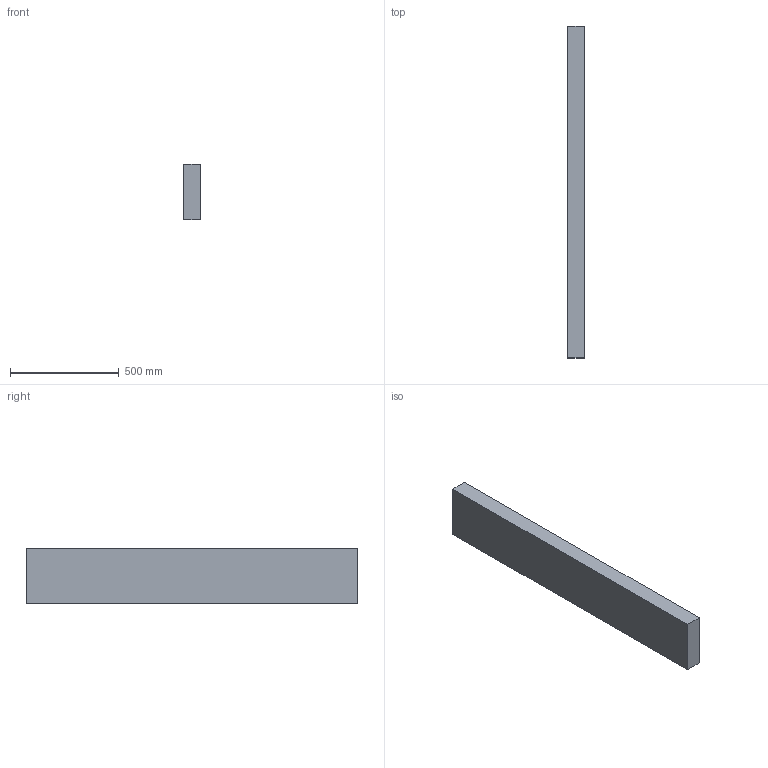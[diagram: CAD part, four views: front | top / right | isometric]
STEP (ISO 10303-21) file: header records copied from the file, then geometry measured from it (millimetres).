
FILE_DESCRIPTION(/* description */ (''),/* implementation_level */ '2;1');
FILE_NAME(/* name */ '3x10x60',/* time_stamp */ '2024-09-20T11:43:40-05:00',/* author */ (''),/* organization */ (''),/* preprocessor_version */ 'ST-DEVELOPER v19.2',/* originating_system */ 'Rhino 8.5',/* authorisation */ '');
FILE_SCHEMA (('CONFIG_CONTROL_DESIGN'));
Length unit declared in the file: inch
Products named in the file (1): Document
Bounding box: 76.2 x 1524 x 254 mm (x, y, z)
Volume: 29496715.2 mm3; surface area: 1045159.2 mm2
Topology: 1 solids, 1 shells, 6 faces, 12 edges, 8 vertices
Faces by surface type: plane 6
Entity records: 226 total; most frequent: CARTESIAN_POINT 40, ORIENTED_EDGE 24, EDGE_CURVE 12, B_SPLINE_CURVE_WITH_KNOTS 12, DIRECTION 10, VERTEX_POINT 8, AXIS2_PLACEMENT_3D 8, ORGANIZATION 7
